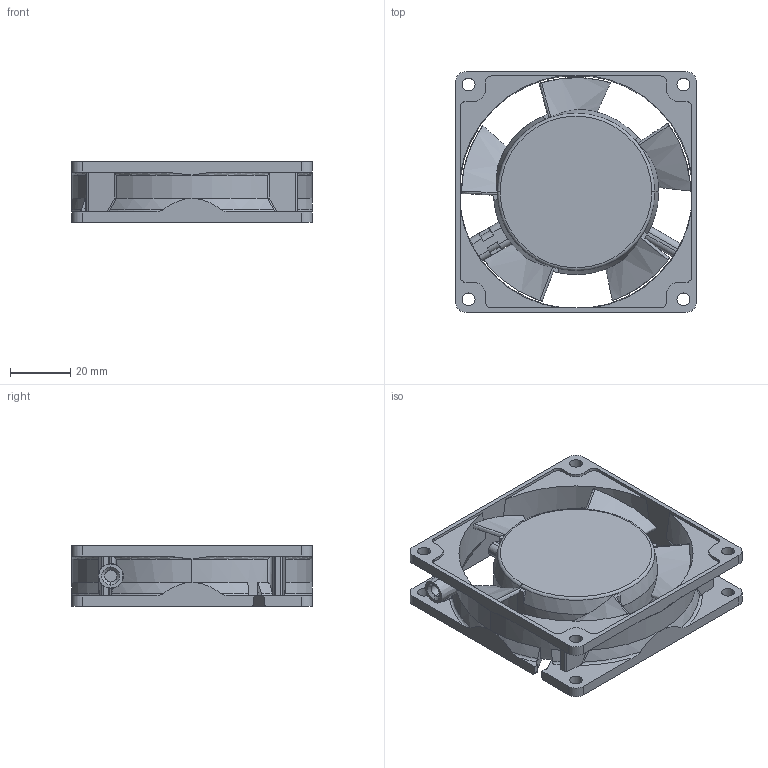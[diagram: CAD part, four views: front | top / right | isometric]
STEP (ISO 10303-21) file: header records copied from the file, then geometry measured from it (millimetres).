
FILE_DESCRIPTION (( 'STEP AP203' ), '1' );
FILE_NAME ('□80mmX20mm.STEP', '2017-07-25T10:02:17', ( '' ), ( '' ), 'SwSTEP 2.0', 'SolidWorks 2017', '' );
FILE_SCHEMA (( 'CONFIG_CONTROL_DESIGN' ));
Length unit declared in the file: millimetre
Products named in the file (1): □80mmX20mm
Bounding box: 80.2 x 80.2 x 20.3 mm (x, y, z)
Volume: 62052.1 mm3; surface area: 27864.9 mm2
Topology: 1 solids, 1 shells, 310 faces, 903 edges, 593 vertices
Faces by surface type: plane 135, cylinder 115, cone 27, torus 19, bspline 14
Entity records: 12615 total; most frequent: CARTESIAN_POINT 4497, ORIENTED_EDGE 1806, DIRECTION 1569, EDGE_CURVE 903, VERTEX_POINT 593, AXIS2_PLACEMENT_3D 573, VECTOR 423, LINE 423
